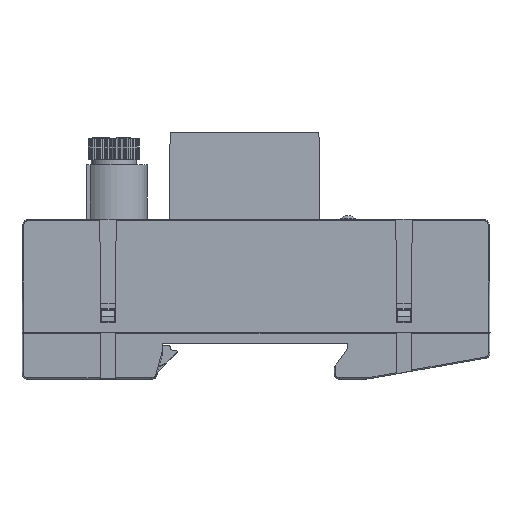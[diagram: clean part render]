
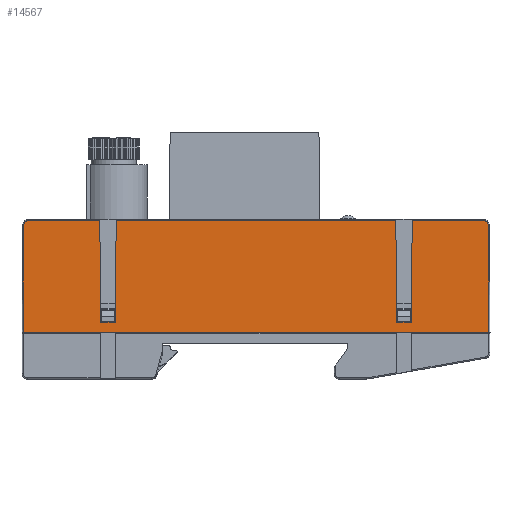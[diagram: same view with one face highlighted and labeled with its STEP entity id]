
A CAD part, top view. The second image highlights one B-rep face of the part: STEP entity #14567.
In plain terms, the highlighted planar face has unit normal (0, 0, 1).
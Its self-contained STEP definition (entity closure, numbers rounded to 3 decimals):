
#222=CIRCLE('',#15375,0.8);
#223=CIRCLE('',#15376,0.8);
#474=FACE_OUTER_BOUND('',#1226,.T.);
#1226=EDGE_LOOP('',(#9524,#9525,#9526,#9527,#9528,#9529,#9530,#9531,#9532,
#9533,#9534,#9535,#9536,#9537));
#1990=LINE('',#20166,#3821);
#2164=LINE('',#20556,#3995);
#2244=LINE('',#20733,#4075);
#2252=LINE('',#20751,#4083);
#2291=LINE('',#20826,#4122);
#2292=LINE('',#20829,#4123);
#2293=LINE('',#20831,#4124);
#2294=LINE('',#20835,#4125);
#2295=LINE('',#20837,#4126);
#2296=LINE('',#20838,#4127);
#2297=LINE('',#20839,#4128);
#2298=LINE('',#20840,#4129);
#3821=VECTOR('',#16348,89.4);
#3995=VECTOR('',#16610,13.749);
#4075=VECTOR('',#16748,19.551);
#4083=VECTOR('',#16762,19.551);
#4122=VECTOR('',#16819,19.551);
#4123=VECTOR('',#16822,20.658);
#4124=VECTOR('',#16823,20.658);
#4125=VECTOR('',#16826,13.749);
#4126=VECTOR('',#16827,19.551);
#4127=VECTOR('',#16828,2.8);
#4128=VECTOR('',#16829,53.659);
#4129=VECTOR('',#16830,2.8);
#5649=VERTEX_POINT('',#20163);
#5650=VERTEX_POINT('',#20165);
#5821=VERTEX_POINT('',#20553);
#5822=VERTEX_POINT('',#20555);
#5889=VERTEX_POINT('',#20731);
#5890=VERTEX_POINT('',#20732);
#5896=VERTEX_POINT('',#20748);
#5897=VERTEX_POINT('',#20750);
#5924=VERTEX_POINT('',#20825);
#5925=VERTEX_POINT('',#20827);
#5926=VERTEX_POINT('',#20830);
#5927=VERTEX_POINT('',#20832);
#5928=VERTEX_POINT('',#20834);
#5929=VERTEX_POINT('',#20836);
#7019=EDGE_CURVE('',#5650,#5649,#1990,.T.);
#7215=EDGE_CURVE('',#5821,#5822,#2164,.T.);
#7303=EDGE_CURVE('',#5889,#5890,#2244,.T.);
#7313=EDGE_CURVE('',#5896,#5897,#2252,.T.);
#7353=EDGE_CURVE('',#5822,#5924,#2291,.T.);
#7354=EDGE_CURVE('',#5821,#5925,#222,.T.);
#7355=EDGE_CURVE('',#5925,#5650,#2292,.T.);
#7356=EDGE_CURVE('',#5649,#5926,#2293,.T.);
#7357=EDGE_CURVE('',#5926,#5927,#223,.T.);
#7358=EDGE_CURVE('',#5928,#5927,#2294,.T.);
#7359=EDGE_CURVE('',#5929,#5928,#2295,.T.);
#7360=EDGE_CURVE('',#5897,#5929,#2296,.T.);
#7361=EDGE_CURVE('',#5890,#5896,#2297,.T.);
#7362=EDGE_CURVE('',#5924,#5889,#2298,.T.);
#9524=ORIENTED_EDGE('',*,*,#7353,.F.);
#9525=ORIENTED_EDGE('',*,*,#7215,.F.);
#9526=ORIENTED_EDGE('',*,*,#7354,.T.);
#9527=ORIENTED_EDGE('',*,*,#7355,.T.);
#9528=ORIENTED_EDGE('',*,*,#7019,.T.);
#9529=ORIENTED_EDGE('',*,*,#7356,.T.);
#9530=ORIENTED_EDGE('',*,*,#7357,.T.);
#9531=ORIENTED_EDGE('',*,*,#7358,.F.);
#9532=ORIENTED_EDGE('',*,*,#7359,.F.);
#9533=ORIENTED_EDGE('',*,*,#7360,.F.);
#9534=ORIENTED_EDGE('',*,*,#7313,.F.);
#9535=ORIENTED_EDGE('',*,*,#7361,.F.);
#9536=ORIENTED_EDGE('',*,*,#7303,.F.);
#9537=ORIENTED_EDGE('',*,*,#7362,.F.);
#13217=PLANE('',#15374);
#14567=ADVANCED_FACE('',(#474),#13217,.F.);
#15374=AXIS2_PLACEMENT_3D('',#20824,#16817,#16818);
#15375=AXIS2_PLACEMENT_3D('',#20828,#16820,#16821);
#15376=AXIS2_PLACEMENT_3D('',#20833,#16824,#16825);
#16348=DIRECTION('',(1.,0.,0.));
#16610=DIRECTION('',(1.,0.,0.));
#16748=DIRECTION('',(0.009,1.,0.));
#16762=DIRECTION('',(0.009,-1.,0.));
#16817=DIRECTION('center_axis',(0.,0.,
-1.));
#16818=DIRECTION('ref_axis',(-1.,0.,0.));
#16819=DIRECTION('',(0.009,-1.,0.));
#16820=DIRECTION('center_axis',(0.,0.,
1.));
#16821=DIRECTION('ref_axis',(-0.704,0.71,0.));
#16822=DIRECTION('',(-0.009,-1.,0.));
#16823=DIRECTION('',(-0.009,1.,0.));
#16824=DIRECTION('center_axis',(0.,0.,
1.));
#16825=DIRECTION('ref_axis',(0.704,0.71,0.));
#16826=DIRECTION('',(1.,0.,0.));
#16827=DIRECTION('',(0.009,1.,0.));
#16828=DIRECTION('',(1.,0.,0.));
#16829=DIRECTION('',(1.,0.,0.));
#16830=DIRECTION('',(1.,0.,0.));
#20163=CARTESIAN_POINT('',(44.702,0.,17.833));
#20165=CARTESIAN_POINT('',(-44.698,0.,17.833));
#20166=CARTESIAN_POINT('',(-44.898,0.,17.833));
#20553=CARTESIAN_POINT('',(-43.718,21.45,17.833));
#20555=CARTESIAN_POINT('',(-29.969,21.45,17.833));
#20556=CARTESIAN_POINT('',(0.002,21.45,17.833));
#20731=CARTESIAN_POINT('',(-26.998,1.9,17.833));
#20732=CARTESIAN_POINT('',(-26.828,21.45,17.833));
#20733=CARTESIAN_POINT('',(-26.885,14.852,17.833));
#20748=CARTESIAN_POINT('',(26.831,21.45,17.833));
#20750=CARTESIAN_POINT('',(27.002,1.9,17.833));
#20751=CARTESIAN_POINT('',(26.887,15.02,17.833));
#20824=CARTESIAN_POINT('Origin',(-19.261,27.738,17.833));
#20825=CARTESIAN_POINT('',(-29.798,1.9,17.833));
#20826=CARTESIAN_POINT('',(-29.911,14.772,17.833));
#20827=CARTESIAN_POINT('',(-44.518,20.657,17.833));
#20828=CARTESIAN_POINT('Origin',(-43.718,20.65,17.833));
#20829=CARTESIAN_POINT('',(-44.482,24.803,17.833));
#20830=CARTESIAN_POINT('',(44.521,20.657,17.833));
#20831=CARTESIAN_POINT('',(44.484,24.971,17.833));
#20832=CARTESIAN_POINT('',(43.721,21.45,17.833));
#20833=CARTESIAN_POINT('Origin',(43.721,20.65,17.833));
#20834=CARTESIAN_POINT('',(29.972,21.45,17.833));
#20835=CARTESIAN_POINT('',(0.002,21.45,17.833));
#20836=CARTESIAN_POINT('',(29.802,1.9,17.833));
#20837=CARTESIAN_POINT('',(29.913,14.604,17.833));
#20838=CARTESIAN_POINT('',(3.87,1.9,17.833));
#20839=CARTESIAN_POINT('',(0.002,21.45,17.833));
#20840=CARTESIAN_POINT('',(-23.13,1.9,17.833));
